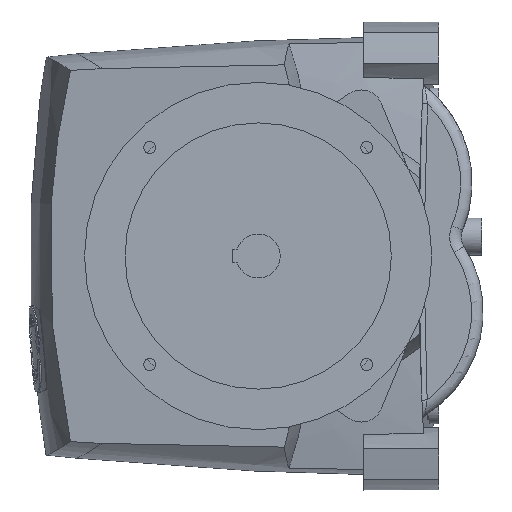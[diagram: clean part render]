
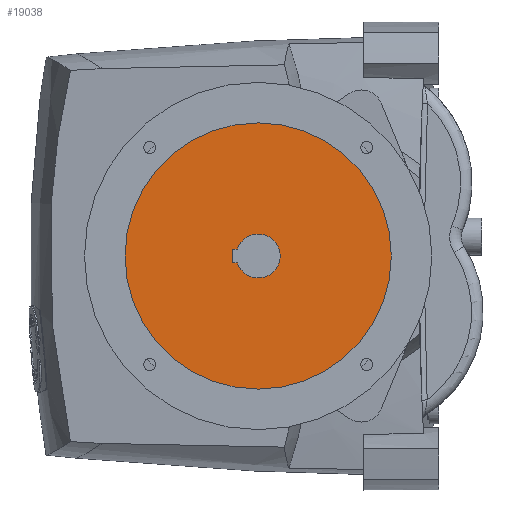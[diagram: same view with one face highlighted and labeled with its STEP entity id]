
A CAD part, left-side view. The second image highlights one B-rep face of the part: STEP entity #19038.
In plain terms, the highlighted planar face has unit normal (-1, 0, 0).
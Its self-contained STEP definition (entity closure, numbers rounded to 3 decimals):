
#6860=CARTESIAN_POINT('',(-444.1,71.934,186.364));
#6861=DIRECTION('',(-1.,0.,0.));
#6862=DIRECTION('',(0.,1.,0.));
#6863=AXIS2_PLACEMENT_3D('',#6860,#6861,#6862);
#6873=CARTESIAN_POINT('',(-444.1,71.934,186.364));
#6874=DIRECTION('',(1.,0.,0.));
#6875=DIRECTION('',(0.,1.,0.));
#6876=AXIS2_PLACEMENT_3D('',#6873,#6874,#6875);
#6878=DIRECTION('',(0.,1.,0.));
#6879=VECTOR('',#6878,4.272);
#6880=CARTESIAN_POINT('',(-444.1,89.962,192.364));
#6881=LINE('',#6880,#6879);
#6882=DIRECTION('',(0.,0.,-1.));
#6883=VECTOR('',#6882,12.);
#6884=CARTESIAN_POINT('',(-444.1,94.234,192.364));
#6885=LINE('',#6884,#6883);
#6886=DIRECTION('',(0.,-1.,0.));
#6887=VECTOR('',#6886,4.272);
#6888=CARTESIAN_POINT('',(-444.1,94.234,180.364));
#6889=LINE('',#6888,#6887);
#6890=CARTESIAN_POINT('',(-444.1,71.934,186.364));
#6891=DIRECTION('',(-1.,0.,0.));
#6892=DIRECTION('',(0.,0.949,-0.316));
#6893=AXIS2_PLACEMENT_3D('',#6890,#6891,#6892);
#8075=CARTESIAN_POINT('',(-444.1,186.934,186.364));
#8077=VERTEX_POINT('',#8075);
#8083=CARTESIAN_POINT('',(-444.1,-43.066,
186.364));
#8085=VERTEX_POINT('',#8083);
#8115=CARTESIAN_POINT('',(-444.1,89.962,192.364));
#8116=CARTESIAN_POINT('',(-444.1,94.234,192.364));
#8117=VERTEX_POINT('',#8115);
#8118=VERTEX_POINT('',#8116);
#8119=CARTESIAN_POINT('',(-444.1,94.234,180.364));
#8120=VERTEX_POINT('',#8119);
#8121=CARTESIAN_POINT('',(-444.1,89.962,180.364));
#8122=VERTEX_POINT('',#8121);
#19019=CARTESIAN_POINT('',(-444.1,71.934,
186.364));
#19020=DIRECTION('',(-1.,0.,0.));
#19021=DIRECTION('',(0.,-1.,0.));
#19022=AXIS2_PLACEMENT_3D('',#19019,#19020,#19021);
#19023=PLANE('',#19022);
#19024=ORIENTED_EDGE('',*,*,#19014,.T.);
#19025=ORIENTED_EDGE('',*,*,#18998,.F.);
#19026=EDGE_LOOP('',(#19024,#19025));
#19027=FACE_OUTER_BOUND('',#19026,.F.);
#19029=ORIENTED_EDGE('',*,*,#19028,.T.);
#19031=ORIENTED_EDGE('',*,*,#19030,.T.);
#19033=ORIENTED_EDGE('',*,*,#19032,.T.);
#19035=ORIENTED_EDGE('',*,*,#19034,.T.);
#19036=EDGE_LOOP('',(#19029,#19031,#19033,#19035));
#19037=FACE_BOUND('',#19036,.F.);
#19038=ADVANCED_FACE('',(#19027,#19037),#19023,.T.);
#6864=CIRCLE('',#6863,115.);
#6877=CIRCLE('',#6876,115.);
#6894=CIRCLE('',#6893,19.);
#18998=EDGE_CURVE('',#8077,#8085,#6864,.T.);
#19014=EDGE_CURVE('',#8077,#8085,#6877,.T.);
#19028=EDGE_CURVE('',#8117,#8118,#6881,.T.);
#19030=EDGE_CURVE('',#8118,#8120,#6885,.T.);
#19032=EDGE_CURVE('',#8120,#8122,#6889,.T.);
#19034=EDGE_CURVE('',#8122,#8117,#6894,.T.);
